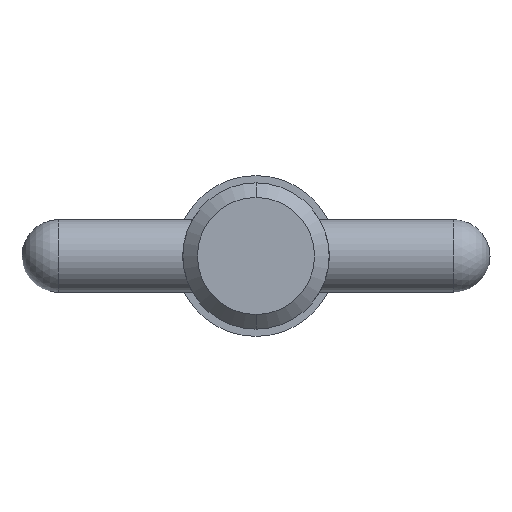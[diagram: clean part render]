
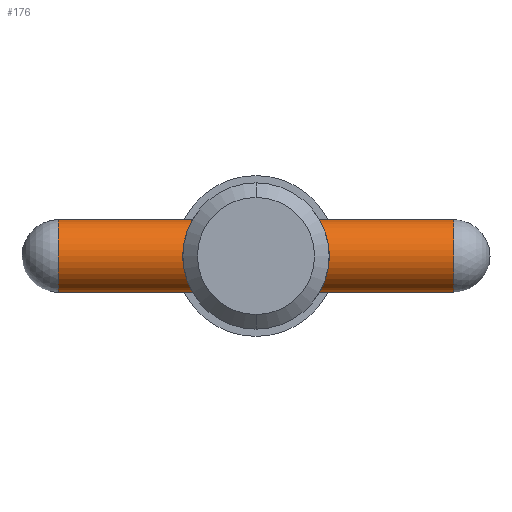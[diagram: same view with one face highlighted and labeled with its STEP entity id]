
A CAD part, left-side view. The second image highlights one B-rep face of the part: STEP entity #176.
In plain terms, the highlighted cylindrical face has radius 1.98 mm (diameter 3.96 mm), a partial arc.
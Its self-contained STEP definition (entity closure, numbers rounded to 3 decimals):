
#48 = CARTESIAN_POINT ( 'NONE',  ( 0., -10.72, 1.98 ) ) ;
#52 = DIRECTION ( 'NONE',  ( 0., 0., -1. ) ) ;
#70 = CARTESIAN_POINT ( 'NONE',  ( 0., 10.72, 0. ) ) ;
#126 = VECTOR ( 'NONE', #200, 1000. ) ;
#132 = CARTESIAN_POINT ( 'NONE',  ( 0., 10.72, -1.98 ) ) ;
#134 = LINE ( 'NONE', #934, #126 ) ;
#176 = ADVANCED_FACE ( 'NONE', ( #674 ), #362, .T. ) ;
#200 = DIRECTION ( 'NONE',  ( 0., -1., 0. ) ) ;
#213 = CARTESIAN_POINT ( 'NONE',  ( 0., 12.7, 1.98 ) ) ;
#222 = VERTEX_POINT ( 'NONE', #347 ) ;
#223 = EDGE_CURVE ( 'NONE', #647, #858, #134, .T. ) ;
#241 = EDGE_CURVE ( 'NONE', #222, #685, #753, .T. ) ;
#294 = CARTESIAN_POINT ( 'NONE',  ( 0., -10.72, 0. ) ) ;
#296 = DIRECTION ( 'NONE',  ( 0., -1., 0. ) ) ;
#299 = AXIS2_PLACEMENT_3D ( 'NONE', #70, #296, #612 ) ;
#347 = CARTESIAN_POINT ( 'NONE',  ( 0., 10.72, 1.98 ) ) ;
#350 = EDGE_CURVE ( 'NONE', #858, #685, #410, .T. ) ;
#362 = CYLINDRICAL_SURFACE ( 'NONE', #774, 1.98 ) ;
#368 = CARTESIAN_POINT ( 'NONE',  ( 0., -10.72, -1.98 ) ) ;
#375 = EDGE_CURVE ( 'NONE', #222, #647, #692, .T. ) ;
#378 = VECTOR ( 'NONE', #668, 1000. ) ;
#391 = AXIS2_PLACEMENT_3D ( 'NONE', #294, #925, #514 ) ;
#410 = CIRCLE ( 'NONE', #391, 1.98 ) ;
#514 = DIRECTION ( 'NONE',  ( 0., 0., -1. ) ) ;
#537 = ORIENTED_EDGE ( 'NONE', *, *, #241, .F. ) ;
#553 = ORIENTED_EDGE ( 'NONE', *, *, #375, .T. ) ;
#596 = DIRECTION ( 'NONE',  ( 0., -1., 0. ) ) ;
#612 = DIRECTION ( 'NONE',  ( 0., 0., -1. ) ) ;
#647 = VERTEX_POINT ( 'NONE', #132 ) ;
#668 = DIRECTION ( 'NONE',  ( 0., -1., 0. ) ) ;
#674 = FACE_OUTER_BOUND ( 'NONE', #929, .T. ) ;
#685 = VERTEX_POINT ( 'NONE', #48 ) ;
#692 = CIRCLE ( 'NONE', #299, 1.98 ) ;
#753 = LINE ( 'NONE', #213, #378 ) ;
#771 = ORIENTED_EDGE ( 'NONE', *, *, #350, .T. ) ;
#772 = ORIENTED_EDGE ( 'NONE', *, *, #223, .T. ) ;
#774 = AXIS2_PLACEMENT_3D ( 'NONE', #850, #596, #52 ) ;
#850 = CARTESIAN_POINT ( 'NONE',  ( 0., 12.7, 0. ) ) ;
#858 = VERTEX_POINT ( 'NONE', #368 ) ;
#925 = DIRECTION ( 'NONE',  ( 0., 1., 0. ) ) ;
#929 = EDGE_LOOP ( 'NONE', ( #537, #553, #772, #771 ) ) ;
#934 = CARTESIAN_POINT ( 'NONE',  ( 0., 12.7, -1.98 ) ) ;
